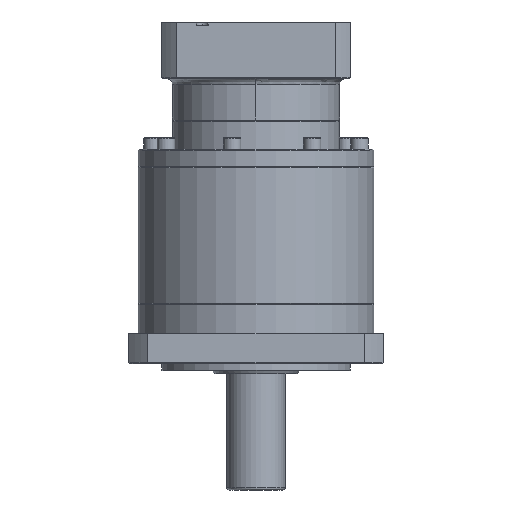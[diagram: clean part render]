
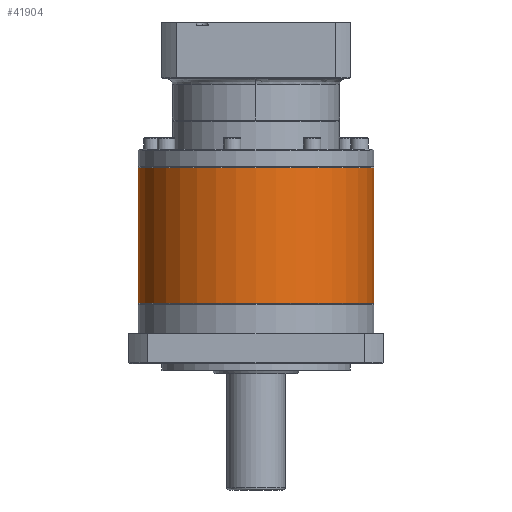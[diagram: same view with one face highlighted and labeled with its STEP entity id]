
A CAD part, front view. The second image highlights one B-rep face of the part: STEP entity #41904.
In plain terms, the highlighted cylindrical face has radius 81 mm (diameter 162 mm), a partial arc.
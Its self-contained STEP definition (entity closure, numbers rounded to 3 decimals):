
#2766 = LINE ( 'NONE', #58582, #138360 ) ;
#6717 = AXIS2_PLACEMENT_3D ( 'NONE', #45541, #113932, #135988 ) ;
#10267 = CARTESIAN_POINT ( 'NONE',  ( -209.718, 114.142, -192.792 ) ) ;
#10873 = VERTEX_POINT ( 'NONE', #134082 ) ;
#12513 = AXIS2_PLACEMENT_3D ( 'NONE', #51350, #64178, #30088 ) ;
#23807 = ORIENTED_EDGE ( 'NONE', *, *, #138104, .T. ) ;
#27053 = CARTESIAN_POINT ( 'NONE',  ( -209.718, 114.142, -98.792 ) ) ;
#27733 = CARTESIAN_POINT ( 'NONE',  ( -47.718, 114.142, -99.292 ) ) ;
#30088 = DIRECTION ( 'NONE',  ( -1., 0., 0. ) ) ;
#31303 = CIRCLE ( 'NONE', #144389, 81. ) ;
#37673 = EDGE_CURVE ( 'NONE', #126081, #81197, #31303, .T. ) ;
#39879 = DIRECTION ( 'NONE',  ( 0., 0., -1. ) ) ;
#41897 = LINE ( 'NONE', #27053, #115906 ) ;
#41904 = ADVANCED_FACE ( 'NONE', ( #138642 ), #73593, .T. ) ;
#45541 = CARTESIAN_POINT ( 'NONE',  ( -128.718, 114.142, -98.792 ) ) ;
#50506 = EDGE_CURVE ( 'NONE', #81197, #138898, #41897, .T. ) ;
#51350 = CARTESIAN_POINT ( 'NONE',  ( -128.718, 114.142, -192.792 ) ) ;
#57705 = ORIENTED_EDGE ( 'NONE', *, *, #50506, .T. ) ;
#58582 = CARTESIAN_POINT ( 'NONE',  ( -47.718, 114.142, -98.792 ) ) ;
#64178 = DIRECTION ( 'NONE',  ( 0., 0., 1. ) ) ;
#66015 = CARTESIAN_POINT ( 'NONE',  ( -128.718, 114.142, -99.292 ) ) ;
#73285 = ORIENTED_EDGE ( 'NONE', *, *, #37673, .T. ) ;
#73593 = CYLINDRICAL_SURFACE ( 'NONE', #6717, 81. ) ;
#81197 = VERTEX_POINT ( 'NONE', #117184 ) ;
#86778 = EDGE_CURVE ( 'NONE', #126081, #10873, #2766, .T. ) ;
#90129 = EDGE_LOOP ( 'NONE', ( #135042, #73285, #57705, #23807 ) ) ;
#113932 = DIRECTION ( 'NONE',  ( 0., 0., -1. ) ) ;
#115906 = VECTOR ( 'NONE', #39879, 1000. ) ;
#117184 = CARTESIAN_POINT ( 'NONE',  ( -209.718, 114.142, -99.292 ) ) ;
#121087 = DIRECTION ( 'NONE',  ( -1., 0., 0. ) ) ;
#126081 = VERTEX_POINT ( 'NONE', #27733 ) ;
#128843 = DIRECTION ( 'NONE',  ( 0., 0., -1. ) ) ;
#134082 = CARTESIAN_POINT ( 'NONE',  ( -47.718, 114.142, -192.792 ) ) ;
#135042 = ORIENTED_EDGE ( 'NONE', *, *, #86778, .F. ) ;
#135988 = DIRECTION ( 'NONE',  ( -1., 0., 0. ) ) ;
#138104 = EDGE_CURVE ( 'NONE', #138898, #10873, #138602, .T. ) ;
#138360 = VECTOR ( 'NONE', #128843, 1000. ) ;
#138602 = CIRCLE ( 'NONE', #12513, 81. ) ;
#138642 = FACE_OUTER_BOUND ( 'NONE', #90129, .T. ) ;
#138898 = VERTEX_POINT ( 'NONE', #10267 ) ;
#144389 = AXIS2_PLACEMENT_3D ( 'NONE', #66015, #144607, #121087 ) ;
#144607 = DIRECTION ( 'NONE',  ( 0., 0., -1. ) ) ;
